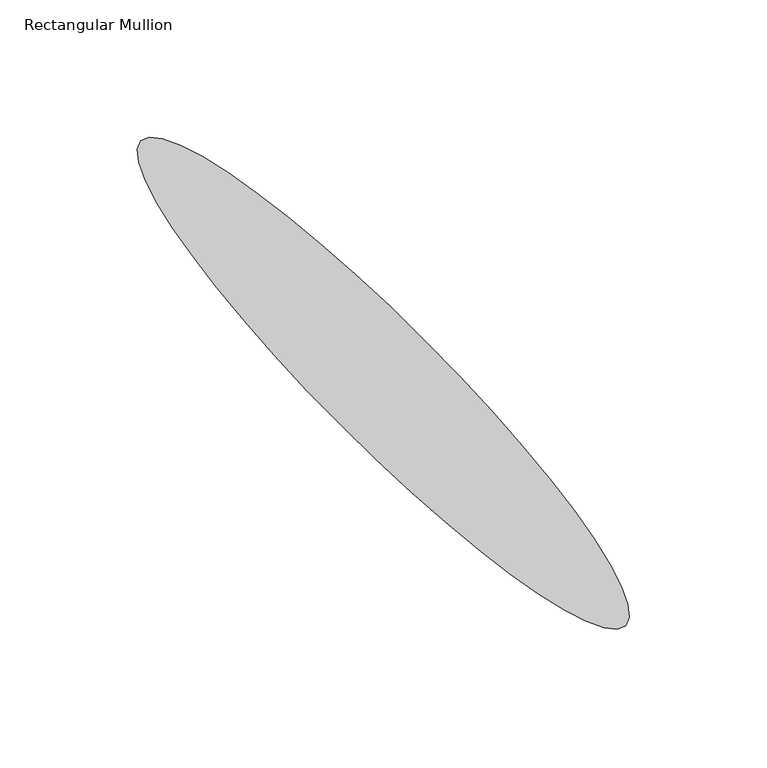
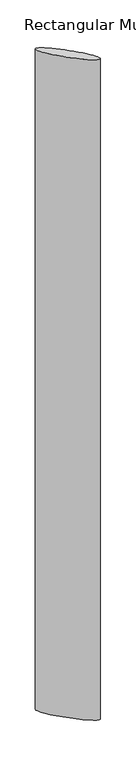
"""IFC4 building model written with IfcOpenShell, lengths in millimetres: member geometry, Rectangular Mullion : RSen_21_CWM_blade - 250 ellips - 45°_gen_duco projects."""

from ifc_helpers import new_model, si_unit, point, frame, origin, place, context, project, spatial, ellipse_curve, trimmed, source, transform, mapped, element, save
from ifc_brep_helpers import plane_surface, extruded_surface, advanced_brep


def rectangular_mullion_dafef153(model_context):
    return source(origin(), model_context, "Body", "AdvancedBrep", [
        advanced_brep(
        [(88.3883476, 6.6116524, 0.0), (-88.3883476, 183.3883476, 0.0), (88.3883476, 6.6116524, -3000.0), (-88.3883476, 183.3883476, -3000.0)],
        [
            (0, 1, ellipse_curve(frame((0.0, 95.0, 0.0), z_axis=(0.0, 0.0, 1.0000000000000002), x_axis=(-0.7071067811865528, 0.7071067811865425, 0.0)), 125.0, 21.75)),
            (1, 0, ellipse_curve(frame((0.0, 95.0, 0.0), z_axis=(0.0, 0.0, 1.0000000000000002), x_axis=(-0.7071067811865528, 0.7071067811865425, 0.0)), 125.0, 21.75)),
            (2, 3, ellipse_curve(frame((0.0, 95.0, -3000.0), z_axis=(0.0, 0.0, -1.0000000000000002), x_axis=(-0.7071067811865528, 0.7071067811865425, 0.0)), 125.0, 21.75)),
            (3, 2, ellipse_curve(frame((0.0, 95.0, -3000.0), z_axis=(0.0, 0.0, -1.0000000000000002), x_axis=(-0.7071067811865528, 0.7071067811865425, 0.0)), 125.0, 21.75)),
            (0, 2),
            (3, 1),
        ],
        [
            plane_surface(frame((0.0, -203.5774694, 0.0), z_axis=(0.0, 0.0, 1.0), x_axis=(-1.0, 0.0, 0.0))),
            plane_surface(frame((0.0, -203.5774694, -3000.0), z_axis=(0.0, 0.0, -1.0), x_axis=(-1.0, 0.0, 0.0))),
            extruded_surface(trimmed(ellipse_curve(frame((0.0, 95.0, -3000.0), z_axis=(0.0, 0.0, 1.0000000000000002), x_axis=(-0.7071067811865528, 0.7071067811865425, 0.0)), 125.0, 21.75), [point((88.3883476, 6.6116524, -3000.0))], [point((-88.3883476, 183.3883476, -3000.0))], True, "CARTESIAN"), (0.0, 0.0, 3000.0), 3000.0),
            extruded_surface(trimmed(ellipse_curve(frame((0.0, 95.0, -3000.0), z_axis=(0.0, 0.0, 1.0000000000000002), x_axis=(-0.7071067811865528, 0.7071067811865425, 0.0)), 125.0, 21.75), [point((-88.3883476, 183.3883476, -3000.0))], [point((88.3883476, 6.6116524, -3000.0))], True, "CARTESIAN"), (0.0, 0.0, 3000.0), 3000.0),
        ],
        [
            (0, [[1, 2]]),
            (1, [[3, 4]]),
            (2, [[-1, 5, -4, 6]]),
            (3, [[-2, -6, -3, -5]]),
        ],
    ),
    ])


if __name__ == "__main__":
    model = new_model("IFC4")
    model_context = context("Model", 3, world=origin())
    ifc_project = project(units=[si_unit("LENGTHUNIT", "METRE", prefix="MILLI")], contexts=[model_context])
    site = spatial("IfcSite", under=ifc_project)
    building = spatial("IfcBuilding", under=site)
    placement = place(None, origin())
    rectangular_mullion_shape = rectangular_mullion_dafef153(model_context)
    element("IfcMember", 1, ObjectType="Rectangular Mullion : RSen_21_CWM_blade - 250 ellips - 45°_gen_duco projects", at=placement, inside=building, context=model_context, shape_type="MappedRepresentation", body=[
        mapped(rectangular_mullion_shape, transform((0.0, 0.0, 0.0), x_axis=(1.0, 0.0, 0.0), y_axis=(0.0, 1.0, 0.0), z_axis=(0.0, 0.0, 1.0))),
    ])
    save(model, "model.ifc")
